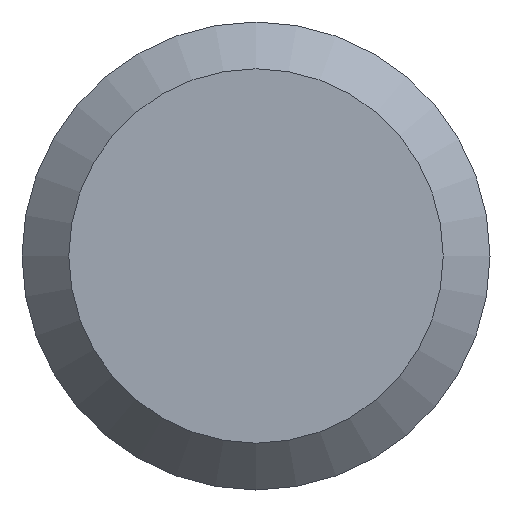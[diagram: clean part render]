
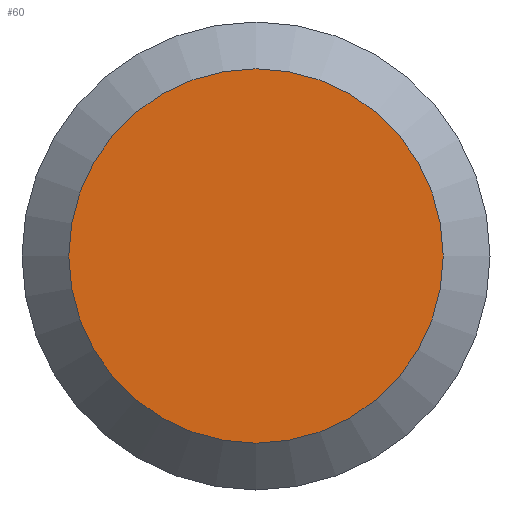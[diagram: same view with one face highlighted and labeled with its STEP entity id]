
A CAD part, left-side view. The second image highlights one B-rep face of the part: STEP entity #60.
In plain terms, the highlighted planar face has unit normal (-1, 0, 0).
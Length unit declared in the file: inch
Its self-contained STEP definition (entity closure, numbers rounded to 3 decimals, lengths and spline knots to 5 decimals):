
#2 = EDGE_CURVE ( 'NONE', #18, #18, #65, .T. ) ;
#18 = VERTEX_POINT ( 'NONE', #77 ) ;
#27 = EDGE_LOOP ( 'NONE', ( #128 ) ) ;
#35 = DIRECTION ( 'NONE',  ( -1., 0., 0. ) ) ;
#60 = ADVANCED_FACE ( 'NONE', ( #84 ), #200, .F. ) ;
#65 = CIRCLE ( 'NONE', #246, 0.175 ) ;
#76 = DIRECTION ( 'NONE',  ( 0., 0., -1. ) ) ;
#77 = CARTESIAN_POINT ( 'NONE',  ( 0., 0., -0.175 ) ) ;
#84 = FACE_OUTER_BOUND ( 'NONE', #27, .T. ) ;
#128 = ORIENTED_EDGE ( 'NONE', *, *, #2, .T. ) ;
#139 = DIRECTION ( 'NONE',  ( 0., 0., -1. ) ) ;
#151 = AXIS2_PLACEMENT_3D ( 'NONE', #185, #231, #76 ) ;
#185 = CARTESIAN_POINT ( 'NONE',  ( 0., 0.21875, 0. ) ) ;
#200 = PLANE ( 'NONE',  #151 ) ;
#231 = DIRECTION ( 'NONE',  ( 1., 0., 0. ) ) ;
#243 = CARTESIAN_POINT ( 'NONE',  ( 0., 0., 0. ) ) ;
#246 = AXIS2_PLACEMENT_3D ( 'NONE', #243, #35, #139 ) ;
